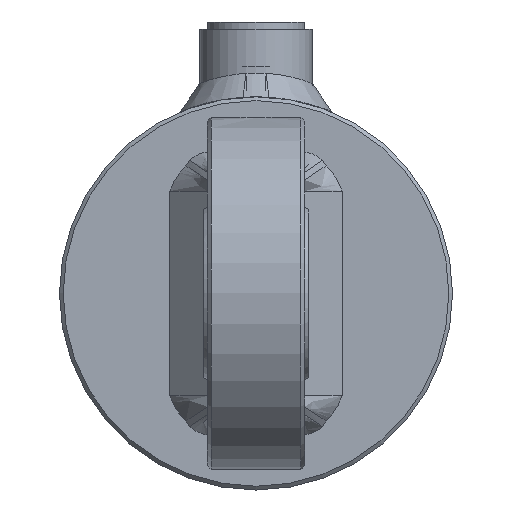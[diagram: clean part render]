
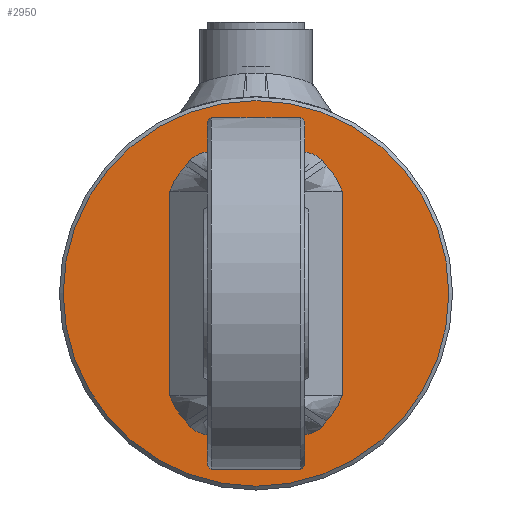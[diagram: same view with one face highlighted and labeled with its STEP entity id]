
A CAD part, left-side view. The second image highlights one B-rep face of the part: STEP entity #2950.
In plain terms, the highlighted planar face has unit normal (-1, 0, 0).
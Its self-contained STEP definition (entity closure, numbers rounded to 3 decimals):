
#2950 = ADVANCED_FACE( '', ( #9441 ), #9442, .T. );
#9441 = FACE_OUTER_BOUND( '', #11417, .T. );
#9442 = PLANE( '', #11418 );
#11417 = EDGE_LOOP( '', ( #12431 ) );
#11418 = AXIS2_PLACEMENT_3D( '', #12432, #12433, #12434 );
#12431 = ORIENTED_EDGE( '', *, *, #13834, .T. );
#12432 = CARTESIAN_POINT( '', ( -15., 0., 0. ) );
#12433 = DIRECTION( '', ( -1., 0., 0. ) );
#12434 = DIRECTION( '', ( 0., -1., 0. ) );
#13834 = EDGE_CURVE( '', #17694, #17694, #17695, .T. );
#17694 = VERTEX_POINT( '', #18293 );
#17695 = CIRCLE( '', #18294, 51.5 );
#18293 = CARTESIAN_POINT( '', ( -15., -51.5, 0. ) );
#18294 = AXIS2_PLACEMENT_3D( '', #18509, #18510, #18511 );
#18509 = CARTESIAN_POINT( '', ( -15., 0., 0. ) );
#18510 = DIRECTION( '', ( -1., 0., 0. ) );
#18511 = DIRECTION( '', ( 0., -1., 0. ) );
